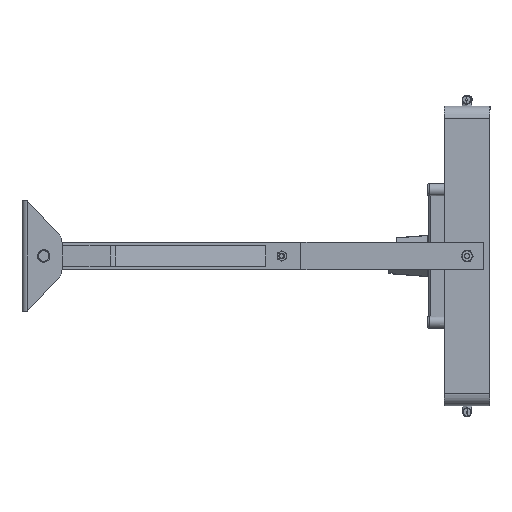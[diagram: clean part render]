
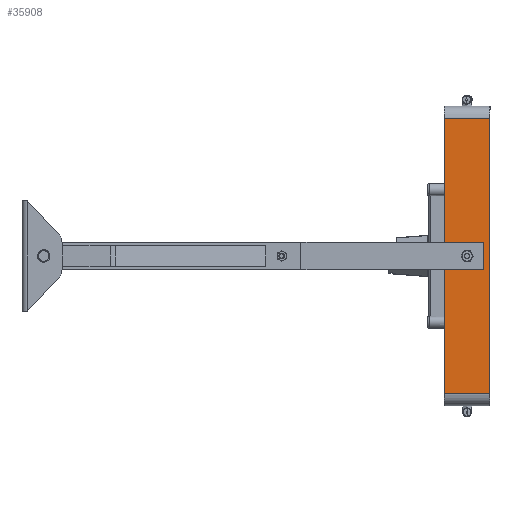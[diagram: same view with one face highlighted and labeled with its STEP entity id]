
A CAD part, front view. The second image highlights one B-rep face of the part: STEP entity #35908.
In plain terms, the highlighted planar face has unit normal (0, -1, 0).
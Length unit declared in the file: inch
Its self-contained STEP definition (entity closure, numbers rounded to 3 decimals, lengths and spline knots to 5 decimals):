
#1668 = VERTEX_POINT ( 'NONE', #81825 ) ;
#1949 = CARTESIAN_POINT ( 'NONE',  ( -7.5, 0., 1.25 ) ) ;
#2620 = CARTESIAN_POINT ( 'NONE',  ( 7.5, 0., 1.25 ) ) ;
#5044 = VERTEX_POINT ( 'NONE', #37111 ) ;
#5983 = CIRCLE ( 'NONE', #58470, 0.1625 ) ;
#6726 = CARTESIAN_POINT ( 'NONE',  ( -7.5, 0., 1.25 ) ) ;
#7073 = DIRECTION ( 'NONE',  ( 0., 0., -1. ) ) ;
#7244 = ORIENTED_EDGE ( 'NONE', *, *, #37042, .F. ) ;
#7954 = CARTESIAN_POINT ( 'NONE',  ( -8.1875, 0., 1.25 ) ) ;
#8038 = VERTEX_POINT ( 'NONE', #38696 ) ;
#16214 = DIRECTION ( 'NONE',  ( 0., -1., 0. ) ) ;
#17396 = DIRECTION ( 'NONE',  ( -1., 0., 0. ) ) ;
#18945 = DIRECTION ( 'NONE',  ( 0., 1., 0. ) ) ;
#19057 = LINE ( 'NONE', #68008, #35042 ) ;
#20904 = DIRECTION ( 'NONE',  ( 0., 1., 0. ) ) ;
#21196 = DIRECTION ( 'NONE',  ( -1., 0., 0. ) ) ;
#21240 = VERTEX_POINT ( 'NONE', #1949 ) ;
#24605 = ORIENTED_EDGE ( 'NONE', *, *, #27660, .F. ) ;
#24790 = EDGE_LOOP ( 'NONE', ( #7244, #24605, #25798, #27592 ) ) ;
#25094 = VERTEX_POINT ( 'NONE', #57234 ) ;
#25798 = ORIENTED_EDGE ( 'NONE', *, *, #52473, .T. ) ;
#27592 = ORIENTED_EDGE ( 'NONE', *, *, #91007, .T. ) ;
#27660 = EDGE_CURVE ( 'NONE', #8038, #93663, #75894, .T. ) ;
#27838 = AXIS2_PLACEMENT_3D ( 'NONE', #68044, #20904, #75994 ) ;
#30151 = LINE ( 'NONE', #72462, #53610 ) ;
#32585 = ORIENTED_EDGE ( 'NONE', *, *, #38264, .T. ) ;
#35042 = VECTOR ( 'NONE', #21196, 39.37008 ) ;
#35908 = ADVANCED_FACE ( 'NONE', ( #98107, #58714 ), #63355, .T. ) ;
#37042 = EDGE_CURVE ( 'NONE', #93663, #25094, #30151, .T. ) ;
#37111 = CARTESIAN_POINT ( 'NONE',  ( 0., 0., -0.1625 ) ) ;
#38264 = EDGE_CURVE ( 'NONE', #1668, #5044, #65622, .T. ) ;
#38696 = CARTESIAN_POINT ( 'NONE',  ( 7.5, 0., 1.25 ) ) ;
#40008 = VECTOR ( 'NONE', #7073, 39.37008 ) ;
#40749 = CARTESIAN_POINT ( 'NONE',  ( 7.5, 0., -1.25 ) ) ;
#46089 = AXIS2_PLACEMENT_3D ( 'NONE', #7954, #16214, #71268 ) ;
#52473 = EDGE_CURVE ( 'NONE', #8038, #21240, #19057, .T. ) ;
#53610 = VECTOR ( 'NONE', #17396, 39.37008 ) ;
#54074 = ORIENTED_EDGE ( 'NONE', *, *, #75079, .T. ) ;
#54973 = VECTOR ( 'NONE', #89340, 39.37008 ) ;
#57234 = CARTESIAN_POINT ( 'NONE',  ( -7.5, 0., -1.25 ) ) ;
#58470 = AXIS2_PLACEMENT_3D ( 'NONE', #66065, #18945, #74015 ) ;
#58714 = FACE_OUTER_BOUND ( 'NONE', #24790, .T. ) ;
#60937 = LINE ( 'NONE', #6726, #40008 ) ;
#63355 = PLANE ( 'NONE',  #46089 ) ;
#64793 = EDGE_LOOP ( 'NONE', ( #32585, #54074 ) ) ;
#65622 = CIRCLE ( 'NONE', #27838, 0.1625 ) ;
#66065 = CARTESIAN_POINT ( 'NONE',  ( 0., 0., 0. ) ) ;
#68008 = CARTESIAN_POINT ( 'NONE',  ( -8.1875, 0., 1.25 ) ) ;
#68044 = CARTESIAN_POINT ( 'NONE',  ( 0., 0., 0. ) ) ;
#71268 = DIRECTION ( 'NONE',  ( 1., 0., 0. ) ) ;
#72462 = CARTESIAN_POINT ( 'NONE',  ( -8.1875, 0., -1.25 ) ) ;
#74015 = DIRECTION ( 'NONE',  ( 0., 0., 1. ) ) ;
#75079 = EDGE_CURVE ( 'NONE', #5044, #1668, #5983, .T. ) ;
#75894 = LINE ( 'NONE', #2620, #54973 ) ;
#75994 = DIRECTION ( 'NONE',  ( 0., 0., 1. ) ) ;
#81825 = CARTESIAN_POINT ( 'NONE',  ( 0., 0., 0.1625 ) ) ;
#89340 = DIRECTION ( 'NONE',  ( 0., 0., -1. ) ) ;
#91007 = EDGE_CURVE ( 'NONE', #21240, #25094, #60937, .T. ) ;
#93663 = VERTEX_POINT ( 'NONE', #40749 ) ;
#98107 = FACE_BOUND ( 'NONE', #64793, .T. ) ;
